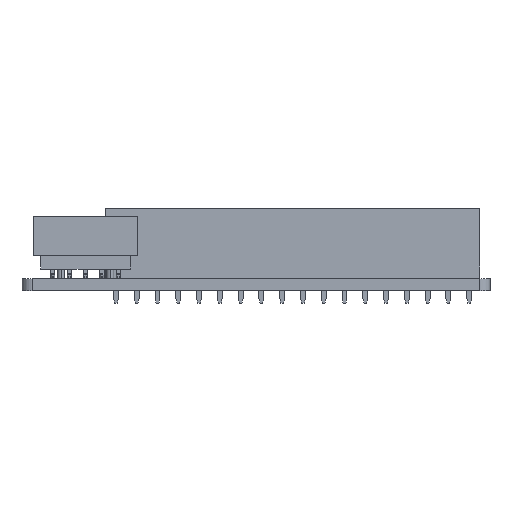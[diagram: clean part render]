
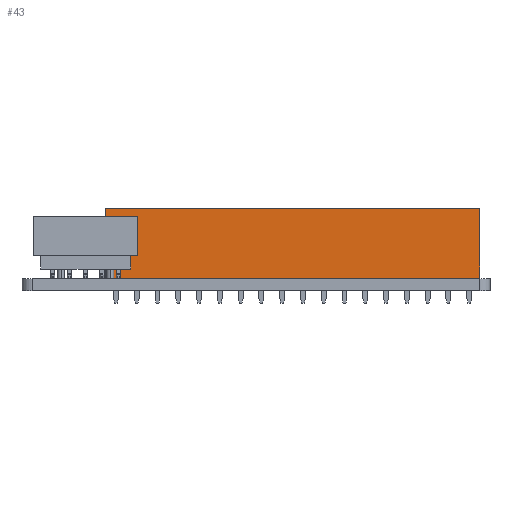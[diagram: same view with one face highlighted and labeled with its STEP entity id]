
A CAD part, front view. The second image highlights one B-rep face of the part: STEP entity #43.
In plain terms, the highlighted planar face has unit normal (0, -1, 0) as drawn and (1, 0, 0) by its records, which use the part's own axes.
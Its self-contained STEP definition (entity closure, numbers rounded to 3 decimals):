
#43 = ADVANCED_FACE('',(#44),#78,.F.);
#44 = FACE_BOUND('',#45,.F.);
#45 = EDGE_LOOP('',(#46,#56,#64,#72));
#46 = ORIENTED_EDGE('',*,*,#47,.T.);
#47 = EDGE_CURVE('',#48,#50,#52,.T.);
#48 = VERTEX_POINT('',#49);
#49 = CARTESIAN_POINT('',(1.27,-44.45,0.));
#50 = VERTEX_POINT('',#51);
#51 = CARTESIAN_POINT('',(1.27,-44.45,8.5));
#52 = LINE('',#53,#54);
#53 = CARTESIAN_POINT('',(1.27,-44.45,0.));
#54 = VECTOR('',#55,1.);
#55 = DIRECTION('',(0.,0.,1.));
#56 = ORIENTED_EDGE('',*,*,#57,.T.);
#57 = EDGE_CURVE('',#50,#58,#60,.T.);
#58 = VERTEX_POINT('',#59);
#59 = CARTESIAN_POINT('',(1.27,1.27,8.5));
#60 = LINE('',#61,#62);
#61 = CARTESIAN_POINT('',(1.27,-44.45,8.5));
#62 = VECTOR('',#63,1.);
#63 = DIRECTION('',(0.,1.,0.));
#64 = ORIENTED_EDGE('',*,*,#65,.F.);
#65 = EDGE_CURVE('',#66,#58,#68,.T.);
#66 = VERTEX_POINT('',#67);
#67 = CARTESIAN_POINT('',(1.27,1.27,0.));
#68 = LINE('',#69,#70);
#69 = CARTESIAN_POINT('',(1.27,1.27,0.));
#70 = VECTOR('',#71,1.);
#71 = DIRECTION('',(0.,0.,1.));
#72 = ORIENTED_EDGE('',*,*,#73,.F.);
#73 = EDGE_CURVE('',#48,#66,#74,.T.);
#74 = LINE('',#75,#76);
#75 = CARTESIAN_POINT('',(1.27,-44.45,0.));
#76 = VECTOR('',#77,1.);
#77 = DIRECTION('',(0.,1.,0.));
#78 = PLANE('',#79);
#79 = AXIS2_PLACEMENT_3D('',#80,#81,#82);
#80 = CARTESIAN_POINT('',(1.27,-44.45,0.));
#81 = DIRECTION('',(-1.,0.,0.));
#82 = DIRECTION('',(0.,1.,0.));
